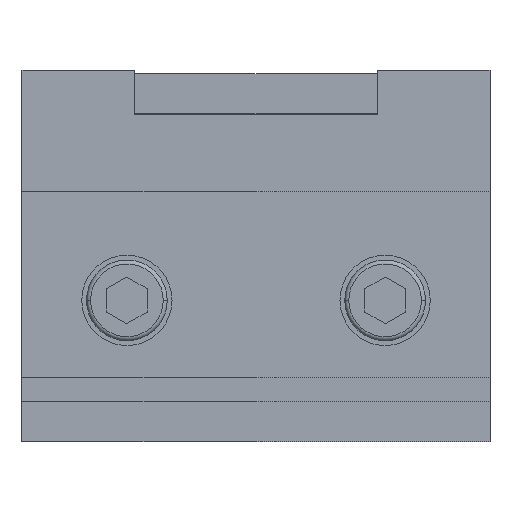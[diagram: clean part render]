
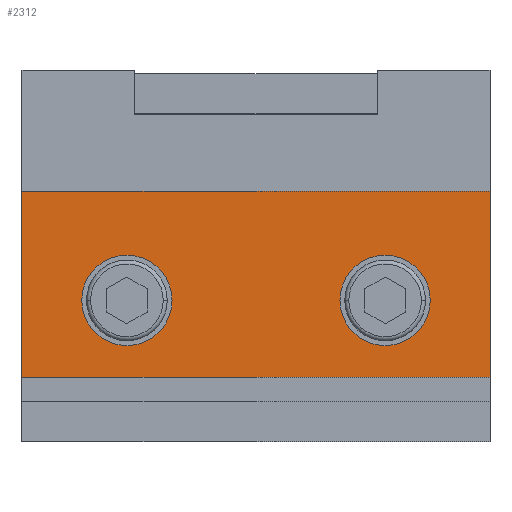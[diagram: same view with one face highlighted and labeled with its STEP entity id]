
A CAD part, front view. The second image highlights one B-rep face of the part: STEP entity #2312.
In plain terms, the highlighted planar face has unit normal (0, -1, 0) as drawn and (0, 0, 1) by its records, which use the part's own axes.
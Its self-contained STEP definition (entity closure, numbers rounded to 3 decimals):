
#1698=DIRECTION('',(1.,0.,0.));
#1699=VECTOR('',#1698,58.);
#1700=CARTESIAN_POINT('',(-29.,27.,20.));
#1701=LINE('',#1700,#1699);
#1705=DIRECTION('',(0.,1.,0.));
#1706=VECTOR('',#1705,23.);
#1707=CARTESIAN_POINT('',(29.,4.,20.));
#1708=LINE('',#1707,#1706);
#1712=DIRECTION('',(1.,0.,0.));
#1713=VECTOR('',#1712,58.);
#1714=CARTESIAN_POINT('',(-29.,4.,20.));
#1715=LINE('',#1714,#1713);
#1719=DIRECTION('',(0.,-1.,0.));
#1720=VECTOR('',#1719,23.);
#1721=CARTESIAN_POINT('',(-29.,27.,20.));
#1722=LINE('',#1721,#1720);
#1726=CARTESIAN_POINT('',(-16.,17.5,20.));
#1727=DIRECTION('',(0.,0.,1.));
#1728=DIRECTION('',(-1.,0.,0.));
#1729=AXIS2_PLACEMENT_3D('',#1726,#1727,#1728);
#1734=CARTESIAN_POINT('',(-16.,17.5,20.));
#1735=DIRECTION('',(0.,0.,1.));
#1736=DIRECTION('',(1.,0.,0.));
#1737=AXIS2_PLACEMENT_3D('',#1734,#1735,#1736);
#1742=CARTESIAN_POINT('',(16.,17.5,20.));
#1743=DIRECTION('',(0.,0.,1.));
#1744=DIRECTION('',(-1.,0.,0.));
#1745=AXIS2_PLACEMENT_3D('',#1742,#1743,#1744);
#1750=CARTESIAN_POINT('',(16.,17.5,20.));
#1751=DIRECTION('',(0.,0.,1.));
#1752=DIRECTION('',(1.,0.,0.));
#1753=AXIS2_PLACEMENT_3D('',#1750,#1751,#1752);
#2037=CARTESIAN_POINT('',(-29.,4.,20.));
#2038=CARTESIAN_POINT('',(29.,4.,20.));
#2039=VERTEX_POINT('',#2037);
#2040=VERTEX_POINT('',#2038);
#2061=CARTESIAN_POINT('',(-29.,27.,20.));
#2062=CARTESIAN_POINT('',(29.,27.,20.));
#2063=VERTEX_POINT('',#2061);
#2064=VERTEX_POINT('',#2062);
#2109=CARTESIAN_POINT('',(-21.6,17.5,20.));
#2110=CARTESIAN_POINT('',(-10.4,17.5,20.));
#2111=VERTEX_POINT('',#2109);
#2112=VERTEX_POINT('',#2110);
#2125=CARTESIAN_POINT('',(10.4,17.5,20.));
#2126=CARTESIAN_POINT('',(21.6,17.5,20.));
#2127=VERTEX_POINT('',#2125);
#2128=VERTEX_POINT('',#2126);
#2288=CARTESIAN_POINT('',(0.,0.,20.));
#2289=DIRECTION('',(0.,0.,1.));
#2290=DIRECTION('',(1.,0.,0.));
#2291=AXIS2_PLACEMENT_3D('',#2288,#2289,#2290);
#2292=PLANE('',#2291);
#2293=ORIENTED_EDGE('',*,*,#2280,.T.);
#2294=ORIENTED_EDGE('',*,*,#2183,.F.);
#2296=ORIENTED_EDGE('',*,*,#2295,.F.);
#2297=ORIENTED_EDGE('',*,*,#2232,.F.);
#2298=EDGE_LOOP('',(#2293,#2294,#2296,#2297));
#2299=FACE_OUTER_BOUND('',#2298,.F.);
#2301=ORIENTED_EDGE('',*,*,#2300,.T.);
#2303=ORIENTED_EDGE('',*,*,#2302,.T.);
#2304=EDGE_LOOP('',(#2301,#2303));
#2305=FACE_BOUND('',#2304,.F.);
#2307=ORIENTED_EDGE('',*,*,#2306,.T.);
#2309=ORIENTED_EDGE('',*,*,#2308,.T.);
#2310=EDGE_LOOP('',(#2307,#2309));
#2311=FACE_BOUND('',#2310,.F.);
#2312=ADVANCED_FACE('',(#2299,#2305,#2311),#2292,.T.);
#1730=CIRCLE('',#1729,5.6);
#1738=CIRCLE('',#1737,5.6);
#1746=CIRCLE('',#1745,5.6);
#1754=CIRCLE('',#1753,5.6);
#2183=EDGE_CURVE('',#2040,#2064,#1708,.T.);
#2232=EDGE_CURVE('',#2063,#2039,#1722,.T.);
#2280=EDGE_CURVE('',#2063,#2064,#1701,.T.);
#2295=EDGE_CURVE('',#2039,#2040,#1715,.T.);
#2300=EDGE_CURVE('',#2111,#2112,#1730,.T.);
#2302=EDGE_CURVE('',#2112,#2111,#1738,.T.);
#2306=EDGE_CURVE('',#2127,#2128,#1746,.T.);
#2308=EDGE_CURVE('',#2128,#2127,#1754,.T.);
